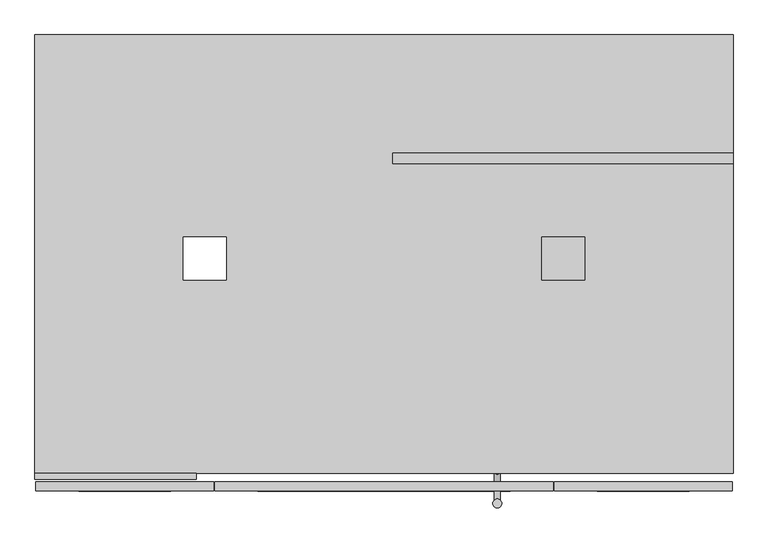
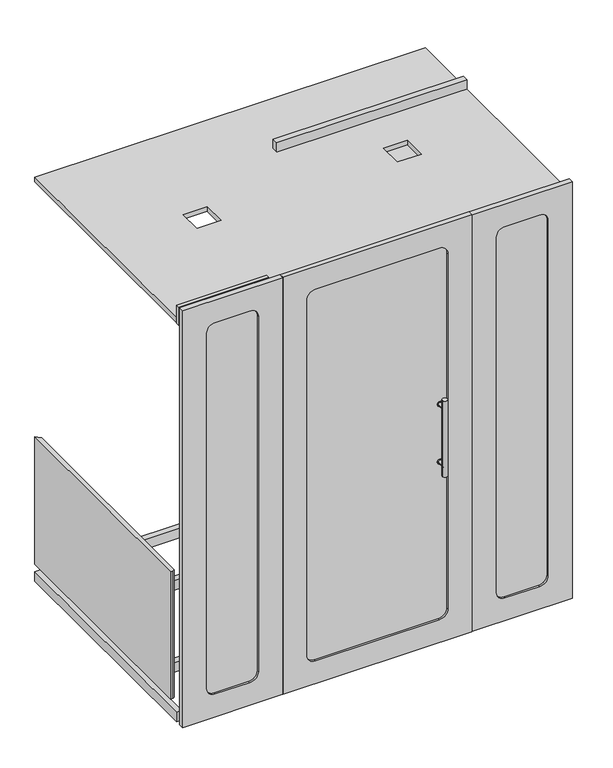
"""IFC4 building model written with IfcOpenShell, lengths in millimetres: furniture geometry, Mobiliário_Mobiliário de Escritório_Cabine Acústica 02 Pessoas - CT 02 PM FM_Marelli : Mobiliário_Mobiliário de Escritório_Cabine Acústica 02 Pessoas - CT 02 PM FM_Marelli."""

from ifc_helpers import new_model, si_unit, point, frame, frame_2d, origin, place, context, project, spatial, polyline, circle_curve, trimmed, segment, composite_curve, outline, extrude, source, transform, mapped, element, save
from ifc_brep_helpers import plane_surface, cylinder_surface, advanced_brep


def furniture_b8f9ac97(model_context):
    return source(origin(), model_context, "Body", "SolidModel", [
        extrude(outline(composite_curve([segment(trimmed(circle_curve(frame_2d((80.0, 920.0)), 5.0), [point((75.0, 920.0))], [point((80.0, 925.0))], False, "CARTESIAN"), True, "CONTINUOUS"), segment(polyline([(80.0, 925.0), (135.0, 925.0)]), True, "CONTINUOUS"), segment(trimmed(circle_curve(frame_2d((135.0, 920.0)), 5.0), [point((135.0, 925.0))], [point((140.0, 920.0))], False, "CARTESIAN"), True, "CONTINUOUS"), segment(polyline([(140.0, 920.0), (140.0, 380.0)]), True, "CONTINUOUS"), segment(trimmed(circle_curve(frame_2d((135.0, 380.0)), 5.0), [point((140.0, 380.0))], [point((135.0, 375.0))], False, "CARTESIAN"), True, "CONTINUOUS"), segment(polyline([(135.0, 375.0), (80.0, 375.0)]), True, "CONTINUOUS"), segment(trimmed(circle_curve(frame_2d((80.0, 380.0)), 5.0), [point((80.0, 375.0))], [point((75.0, 380.0))], False, "CARTESIAN"), True, "CONTINUOUS"), segment(polyline([(75.0, 380.0), (75.0, 920.0)]), True, "CONTINUOUS")], self_intersect=False), holes=[composite_curve([segment(polyline([(103.6, 725.0), (103.6, 575.0)]), True, "CONTINUOUS"), segment(trimmed(circle_curve(frame_2d((107.5, 575.0)), 3.9), [point((103.6, 575.0))], [point((111.4, 575.0))], True, "CARTESIAN"), True, "CONTINUOUS"), segment(polyline([(111.4, 575.0), (111.4, 725.0)]), True, "CONTINUOUS"), segment(trimmed(circle_curve(frame_2d((107.5, 725.0)), 3.9), [point((111.4, 725.0))], [point((103.6, 725.0))], True, "CARTESIAN"), True, "CONTINUOUS")], self_intersect=False), composite_curve([segment(polyline([(83.6, 715.0), (83.6, 585.0)]), True, "CONTINUOUS"), segment(trimmed(circle_curve(frame_2d((87.5, 585.0)), 3.9), [point((83.6, 585.0))], [point((91.4, 585.0))], True, "CARTESIAN"), True, "CONTINUOUS"), segment(polyline([(91.4, 585.0), (91.4, 715.0)]), True, "CONTINUOUS"), segment(trimmed(circle_curve(frame_2d((87.5, 715.0)), 3.9), [point((91.4, 715.0))], [point((83.6, 715.0))], True, "CARTESIAN"), True, "CONTINUOUS")], self_intersect=False), composite_curve([segment(trimmed(circle_curve(frame_2d((127.5, 715.0)), 3.9), [point((131.4, 715.0))], [point((123.6, 715.0))], True, "CARTESIAN"), True, "CONTINUOUS"), segment(polyline([(123.6, 715.0), (123.6, 585.0)]), True, "CONTINUOUS"), segment(trimmed(circle_curve(frame_2d((127.5, 585.0)), 3.9), [point((123.6, 585.0))], [point((131.4, 585.0))], True, "CARTESIAN"), True, "CONTINUOUS"), segment(polyline([(131.4, 585.0), (131.4, 715.0)]), True, "CONTINUOUS")], self_intersect=False), composite_curve([segment(trimmed(circle_curve(frame_2d((107.5, 755.0)), 3.9), [point((103.6, 755.0))], [point((111.4, 755.0))], True, "CARTESIAN"), True, "CONTINUOUS"), segment(polyline([(111.4, 755.0), (111.4, 905.0)]), True, "CONTINUOUS"), segment(trimmed(circle_curve(frame_2d((107.5, 905.0)), 3.9), [point((111.4, 905.0))], [point((103.6, 905.0))], True, "CARTESIAN"), True, "CONTINUOUS"), segment(polyline([(103.6, 905.0), (103.6, 755.0)]), True, "CONTINUOUS")], self_intersect=False), composite_curve([segment(trimmed(circle_curve(frame_2d((87.5, 765.0)), 3.9), [point((83.6, 765.0))], [point((91.4, 765.0))], True, "CARTESIAN"), True, "CONTINUOUS"), segment(polyline([(91.4, 765.0), (91.4, 895.0)]), True, "CONTINUOUS"), segment(trimmed(circle_curve(frame_2d((87.5, 895.0)), 3.9), [point((91.4, 895.0))], [point((83.6, 895.0))], True, "CARTESIAN"), True, "CONTINUOUS"), segment(polyline([(83.6, 895.0), (83.6, 765.0)]), True, "CONTINUOUS")], self_intersect=False), composite_curve([segment(polyline([(131.4, 765.0), (131.4, 895.0)]), True, "CONTINUOUS"), segment(trimmed(circle_curve(frame_2d((127.5, 895.0)), 3.9), [point((131.4, 895.0))], [point((123.6, 895.0))], True, "CARTESIAN"), True, "CONTINUOUS"), segment(polyline([(123.6, 895.0), (123.6, 765.0)]), True, "CONTINUOUS"), segment(trimmed(circle_curve(frame_2d((127.5, 765.0)), 3.9), [point((123.6, 765.0))], [point((131.4, 765.0))], True, "CARTESIAN"), True, "CONTINUOUS")], self_intersect=False), composite_curve([segment(polyline([(103.6, 545.0), (103.6, 395.0)]), True, "CONTINUOUS"), segment(trimmed(circle_curve(frame_2d((107.5, 395.0)), 3.9), [point((103.6, 395.0))], [point((111.4, 395.0))], True, "CARTESIAN"), True, "CONTINUOUS"), segment(polyline([(111.4, 395.0), (111.4, 545.0)]), True, "CONTINUOUS"), segment(trimmed(circle_curve(frame_2d((107.5, 545.0)), 3.9), [point((111.4, 545.0))], [point((103.6, 545.0))], True, "CARTESIAN"), True, "CONTINUOUS")], self_intersect=False), composite_curve([segment(polyline([(83.6, 535.0), (83.6, 405.0)]), True, "CONTINUOUS"), segment(trimmed(circle_curve(frame_2d((87.5, 405.0)), 3.9), [point((83.6, 405.0))], [point((91.4, 405.0))], True, "CARTESIAN"), True, "CONTINUOUS"), segment(polyline([(91.4, 405.0), (91.4, 535.0)]), True, "CONTINUOUS"), segment(trimmed(circle_curve(frame_2d((87.5, 535.0)), 3.9), [point((91.4, 535.0))], [point((83.6, 535.0))], True, "CARTESIAN"), True, "CONTINUOUS")], self_intersect=False), composite_curve([segment(trimmed(circle_curve(frame_2d((127.5, 535.0)), 3.9), [point((131.4, 535.0))], [point((123.6, 535.0))], True, "CARTESIAN"), True, "CONTINUOUS"), segment(polyline([(123.6, 535.0), (123.6, 405.0)]), True, "CONTINUOUS"), segment(trimmed(circle_curve(frame_2d((127.5, 405.0)), 3.9), [point((123.6, 405.0))], [point((131.4, 405.0))], True, "CARTESIAN"), True, "CONTINUOUS"), segment(polyline([(131.4, 405.0), (131.4, 535.0)]), True, "CONTINUOUS")], self_intersect=False)]), frame((0.0, 0.0, 113.5), z_axis=(0.0, 0.0, 1.0), x_axis=(1.0, 0.0, 0.0)), (0.0, 0.0, 1.0), 1.9953278),
        extrude(outline(polyline([(985.0, 945.0), (985.0, 915.0), (55.0, 915.0), (55.0, 945.0), (985.0, 945.0)])), frame((0.0, 0.0, 24.5), z_axis=(0.0, 0.0, 1.0), x_axis=(1.0, 0.0, 0.0)), (0.0, 0.0, 1.0), 50.0),
        extrude(outline(polyline([(985.0, 410.0), (985.0, 380.0), (55.0, 380.0), (55.0, 410.0), (985.0, 410.0)])), frame((0.0, 0.0, 24.5), z_axis=(0.0, 0.0, 1.0), x_axis=(1.0, 0.0, 0.0)), (0.0, 0.0, 1.0), 50.0),
        extrude(outline(composite_curve([segment(polyline([(1925.0, 920.0), (1925.0, 380.0)]), True, "CONTINUOUS"), segment(trimmed(circle_curve(frame_2d((1920.0, 380.0)), 5.0), [point((1925.0, 380.0))], [point((1920.0, 375.0))], False, "CARTESIAN"), True, "CONTINUOUS"), segment(polyline([(1920.0, 375.0), (1865.0, 375.0)]), True, "CONTINUOUS"), segment(trimmed(circle_curve(frame_2d((1865.0, 380.0)), 5.0), [point((1865.0, 375.0))], [point((1860.0, 380.0))], False, "CARTESIAN"), True, "CONTINUOUS"), segment(polyline([(1860.0, 380.0), (1860.0, 920.0)]), True, "CONTINUOUS"), segment(trimmed(circle_curve(frame_2d((1865.0, 920.0)), 5.0), [point((1860.0, 920.0))], [point((1865.0, 925.0))], False, "CARTESIAN"), True, "CONTINUOUS"), segment(polyline([(1865.0, 925.0), (1920.0, 925.0)]), True, "CONTINUOUS"), segment(trimmed(circle_curve(frame_2d((1920.0, 920.0)), 5.0), [point((1920.0, 925.0))], [point((1925.0, 920.0))], False, "CARTESIAN"), True, "CONTINUOUS")], self_intersect=False), holes=[composite_curve([segment(trimmed(circle_curve(frame_2d((1892.5, 725.0)), 3.9), [point((1896.4, 725.0))], [point((1888.6, 725.0))], True, "CARTESIAN"), True, "CONTINUOUS"), segment(polyline([(1888.6, 725.0), (1888.6, 575.0)]), True, "CONTINUOUS"), segment(trimmed(circle_curve(frame_2d((1892.5, 575.0)), 3.9), [point((1888.6, 575.0))], [point((1896.4, 575.0))], True, "CARTESIAN"), True, "CONTINUOUS"), segment(polyline([(1896.4, 575.0), (1896.4, 725.0)]), True, "CONTINUOUS")], self_intersect=False), composite_curve([segment(trimmed(circle_curve(frame_2d((1912.5, 715.0)), 3.9), [point((1916.4, 715.0))], [point((1908.6, 715.0))], True, "CARTESIAN"), True, "CONTINUOUS"), segment(polyline([(1908.6, 715.0), (1908.6, 585.0)]), True, "CONTINUOUS"), segment(trimmed(circle_curve(frame_2d((1912.5, 585.0)), 3.9), [point((1908.6, 585.0))], [point((1916.4, 585.0))], True, "CARTESIAN"), True, "CONTINUOUS"), segment(polyline([(1916.4, 585.0), (1916.4, 715.0)]), True, "CONTINUOUS")], self_intersect=False), composite_curve([segment(polyline([(1868.6, 715.0), (1868.6, 585.0)]), True, "CONTINUOUS"), segment(trimmed(circle_curve(frame_2d((1872.5, 585.0)), 3.9), [point((1868.6, 585.0))], [point((1876.4, 585.0))], True, "CARTESIAN"), True, "CONTINUOUS"), segment(polyline([(1876.4, 585.0), (1876.4, 715.0)]), True, "CONTINUOUS"), segment(trimmed(circle_curve(frame_2d((1872.5, 715.0)), 3.9), [point((1876.4, 715.0))], [point((1868.6, 715.0))], True, "CARTESIAN"), True, "CONTINUOUS")], self_intersect=False), composite_curve([segment(polyline([(1896.4, 755.0), (1896.4, 905.0)]), True, "CONTINUOUS"), segment(trimmed(circle_curve(frame_2d((1892.5, 905.0)), 3.9), [point((1896.4, 905.0))], [point((1888.6, 905.0))], True, "CARTESIAN"), True, "CONTINUOUS"), segment(polyline([(1888.6, 905.0), (1888.6, 755.0)]), True, "CONTINUOUS"), segment(trimmed(circle_curve(frame_2d((1892.5, 755.0)), 3.9), [point((1888.6, 755.0))], [point((1896.4, 755.0))], True, "CARTESIAN"), True, "CONTINUOUS")], self_intersect=False), composite_curve([segment(polyline([(1916.4, 765.0), (1916.4, 895.0)]), True, "CONTINUOUS"), segment(trimmed(circle_curve(frame_2d((1912.5, 895.0)), 3.9), [point((1916.4, 895.0))], [point((1908.6, 895.0))], True, "CARTESIAN"), True, "CONTINUOUS"), segment(polyline([(1908.6, 895.0), (1908.6, 765.0)]), True, "CONTINUOUS"), segment(trimmed(circle_curve(frame_2d((1912.5, 765.0)), 3.9), [point((1908.6, 765.0))], [point((1916.4, 765.0))], True, "CARTESIAN"), True, "CONTINUOUS")], self_intersect=False), composite_curve([segment(trimmed(circle_curve(frame_2d((1872.5, 765.0)), 3.9), [point((1868.6, 765.0))], [point((1876.4, 765.0))], True, "CARTESIAN"), True, "CONTINUOUS"), segment(polyline([(1876.4, 765.0), (1876.4, 895.0)]), True, "CONTINUOUS"), segment(trimmed(circle_curve(frame_2d((1872.5, 895.0)), 3.9), [point((1876.4, 895.0))], [point((1868.6, 895.0))], True, "CARTESIAN"), True, "CONTINUOUS"), segment(polyline([(1868.6, 895.0), (1868.6, 765.0)]), True, "CONTINUOUS")], self_intersect=False), composite_curve([segment(trimmed(circle_curve(frame_2d((1892.5, 545.0)), 3.9), [point((1896.4, 545.0))], [point((1888.6, 545.0))], True, "CARTESIAN"), True, "CONTINUOUS"), segment(polyline([(1888.6, 545.0), (1888.6, 395.0)]), True, "CONTINUOUS"), segment(trimmed(circle_curve(frame_2d((1892.5, 395.0)), 3.9), [point((1888.6, 395.0))], [point((1896.4, 395.0))], True, "CARTESIAN"), True, "CONTINUOUS"), segment(polyline([(1896.4, 395.0), (1896.4, 545.0)]), True, "CONTINUOUS")], self_intersect=False), composite_curve([segment(trimmed(circle_curve(frame_2d((1912.5, 535.0)), 3.9), [point((1916.4, 535.0))], [point((1908.6, 535.0))], True, "CARTESIAN"), True, "CONTINUOUS"), segment(polyline([(1908.6, 535.0), (1908.6, 405.0)]), True, "CONTINUOUS"), segment(trimmed(circle_curve(frame_2d((1912.5, 405.0)), 3.9), [point((1908.6, 405.0))], [point((1916.4, 405.0))], True, "CARTESIAN"), True, "CONTINUOUS"), segment(polyline([(1916.4, 405.0), (1916.4, 535.0)]), True, "CONTINUOUS")], self_intersect=False), composite_curve([segment(polyline([(1868.6, 535.0), (1868.6, 405.0)]), True, "CONTINUOUS"), segment(trimmed(circle_curve(frame_2d((1872.5, 405.0)), 3.9), [point((1868.6, 405.0))], [point((1876.4, 405.0))], True, "CARTESIAN"), True, "CONTINUOUS"), segment(polyline([(1876.4, 405.0), (1876.4, 535.0)]), True, "CONTINUOUS"), segment(trimmed(circle_curve(frame_2d((1872.5, 535.0)), 3.9), [point((1876.4, 535.0))], [point((1868.6, 535.0))], True, "CARTESIAN"), True, "CONTINUOUS")], self_intersect=False)]), frame((0.0, 0.0, 113.5), z_axis=(0.0, 0.0, 1.0), x_axis=(1.0, 0.0, 0.0)), (0.0, 0.0, 1.0), 1.9953278),
        extrude(outline(composite_curve([segment(polyline([(25.0, 102.0), (25.0, 1275.0), (45.5304331, 1254.4695669)]), True, "CONTINUOUS"), segment(trimmed(circle_curve(frame_2d((43.1599032, 1251.4457873)), 3.84222), [point((45.5304331, 1254.4695669))], [point((47.0, 1251.3180705))], False, "CARTESIAN"), True, "CONTINUOUS"), segment(polyline([(47.0, 1251.3180705), (47.0, 113.0)]), True, "CONTINUOUS"), segment(trimmed(circle_curve(frame_2d((36.0, 113.0)), 11.0), [point((47.0, 113.0))], [point((36.0, 102.0))], False, "CARTESIAN"), True, "CONTINUOUS"), segment(polyline([(36.0, 102.0), (25.0, 102.0)]), True, "CONTINUOUS")], self_intersect=False)), frame((0.0, 0.0, 113.5), z_axis=(0.0, 0.0, 1.0), x_axis=(1.0, 0.0, 0.0)), (0.0, 0.0, 1.0), 672.0),
        extrude(outline(composite_curve([segment(polyline([(1252.9978767, 2109.5), (124.0, 2109.5)]), True, "CONTINUOUS"), segment(trimmed(circle_curve(frame_2d((124.0, 2131.5)), 22.0), [point((124.0, 2109.5))], [point((102.0, 2131.5))], False, "CARTESIAN"), True, "CONTINUOUS"), segment(polyline([(102.0, 2131.5), (1252.9978767, 2131.5), (1252.9978767, 2109.5)]), True, "CONTINUOUS")], self_intersect=False)), frame((1317.666, 0.0, 0.0), z_axis=(1.0, 0.0, 0.0), x_axis=(0.0, 1.0, 0.0)), (0.0, 0.0, 1.0), 635.333),
        extrude(outline(composite_curve([segment(polyline([(1443.0368913, 710.0), (1556.9631087, 710.0)]), True, "CONTINUOUS"), segment(trimmed(circle_curve(frame_2d((1556.9631087, 706.9631087)), 3.0368913), [point((1556.9631087, 710.0))], [point((1560.0, 706.9631087))], False, "CARTESIAN"), True, "CONTINUOUS"), segment(polyline([(1560.0, 706.9631087), (1560.0, 593.0368913)]), True, "CONTINUOUS"), segment(trimmed(circle_curve(frame_2d((1556.9631087, 593.0368913)), 3.0368913), [point((1560.0, 593.0368913))], [point((1556.9631087, 590.0))], False, "CARTESIAN"), True, "CONTINUOUS"), segment(polyline([(1556.9631087, 590.0), (1443.0368913, 590.0)]), True, "CONTINUOUS"), segment(trimmed(circle_curve(frame_2d((1443.0368913, 593.0368913)), 3.0368913), [point((1443.0368913, 590.0))], [point((1440.0, 593.0368913))], False, "CARTESIAN"), True, "CONTINUOUS"), segment(polyline([(1440.0, 593.0368913), (1440.0, 706.9631087)]), True, "CONTINUOUS"), segment(trimmed(circle_curve(frame_2d((1443.0368913, 706.9631087)), 3.0368913), [point((1440.0, 706.9631087))], [point((1443.0368913, 710.0))], False, "CARTESIAN"), True, "CONTINUOUS")], self_intersect=False), holes=[composite_curve([segment(trimmed(circle_curve(frame_2d((1500.0, 700.0)), 4.0), [point((1504.0, 700.0))], [point((1496.0, 700.0))], True, "CARTESIAN"), True, "CONTINUOUS"), segment(polyline([(1496.0, 700.0), (1496.0, 600.0)]), True, "CONTINUOUS"), segment(trimmed(circle_curve(frame_2d((1500.0, 600.0)), 4.0), [point((1496.0, 600.0))], [point((1504.0, 600.0))], True, "CARTESIAN"), True, "CONTINUOUS"), segment(polyline([(1504.0, 600.0), (1504.0, 700.0)]), True, "CONTINUOUS")], self_intersect=False), composite_curve([segment(trimmed(circle_curve(frame_2d((1516.0, 690.0)), 4.0), [point((1520.0, 690.0))], [point((1512.0, 690.0))], True, "CARTESIAN"), True, "CONTINUOUS"), segment(polyline([(1512.0, 690.0), (1512.0, 610.0)]), True, "CONTINUOUS"), segment(trimmed(circle_curve(frame_2d((1516.0, 610.0)), 4.0), [point((1512.0, 610.0))], [point((1520.0, 610.0))], True, "CARTESIAN"), True, "CONTINUOUS"), segment(polyline([(1520.0, 610.0), (1520.0, 690.0)]), True, "CONTINUOUS")], self_intersect=False), composite_curve([segment(trimmed(circle_curve(frame_2d((1532.0, 680.0)), 4.0), [point((1536.0, 680.0))], [point((1528.0, 680.0))], True, "CARTESIAN"), True, "CONTINUOUS"), segment(polyline([(1528.0, 680.0), (1528.0, 620.0)]), True, "CONTINUOUS"), segment(trimmed(circle_curve(frame_2d((1532.0, 620.0)), 4.0), [point((1528.0, 620.0))], [point((1536.0, 620.0))], True, "CARTESIAN"), True, "CONTINUOUS"), segment(polyline([(1536.0, 620.0), (1536.0, 680.0)]), True, "CONTINUOUS")], self_intersect=False), composite_curve([segment(trimmed(circle_curve(frame_2d((1548.0, 670.0)), 4.0), [point((1552.0, 670.0))], [point((1544.0, 670.0))], True, "CARTESIAN"), True, "CONTINUOUS"), segment(polyline([(1544.0, 670.0), (1544.0, 630.0)]), True, "CONTINUOUS"), segment(trimmed(circle_curve(frame_2d((1548.0, 630.0)), 4.0), [point((1544.0, 630.0))], [point((1552.0, 630.0))], True, "CARTESIAN"), True, "CONTINUOUS"), segment(polyline([(1552.0, 630.0), (1552.0, 670.0)]), True, "CONTINUOUS")], self_intersect=False), composite_curve([segment(polyline([(1480.0, 690.0), (1480.0, 610.0)]), True, "CONTINUOUS"), segment(trimmed(circle_curve(frame_2d((1484.0, 610.0)), 4.0), [point((1480.0, 610.0))], [point((1488.0, 610.0))], True, "CARTESIAN"), True, "CONTINUOUS"), segment(polyline([(1488.0, 610.0), (1488.0, 690.0)]), True, "CONTINUOUS"), segment(trimmed(circle_curve(frame_2d((1484.0, 690.0)), 4.0), [point((1488.0, 690.0))], [point((1480.0, 690.0))], True, "CARTESIAN"), True, "CONTINUOUS")], self_intersect=False), composite_curve([segment(polyline([(1464.0, 680.0), (1464.0, 620.0)]), True, "CONTINUOUS"), segment(trimmed(circle_curve(frame_2d((1468.0, 620.0)), 4.0), [point((1464.0, 620.0))], [point((1472.0, 620.0))], True, "CARTESIAN"), True, "CONTINUOUS"), segment(polyline([(1472.0, 620.0), (1472.0, 680.0)]), True, "CONTINUOUS"), segment(trimmed(circle_curve(frame_2d((1468.0, 680.0)), 4.0), [point((1472.0, 680.0))], [point((1464.0, 680.0))], True, "CARTESIAN"), True, "CONTINUOUS")], self_intersect=False), composite_curve([segment(polyline([(1448.0, 670.0), (1448.0, 630.0)]), True, "CONTINUOUS"), segment(trimmed(circle_curve(frame_2d((1452.0, 630.0)), 4.0), [point((1448.0, 630.0))], [point((1456.0, 630.0))], True, "CARTESIAN"), True, "CONTINUOUS"), segment(polyline([(1456.0, 630.0), (1456.0, 670.0)]), True, "CONTINUOUS"), segment(trimmed(circle_curve(frame_2d((1452.0, 670.0)), 4.0), [point((1456.0, 670.0))], [point((1448.0, 670.0))], True, "CARTESIAN"), True, "CONTINUOUS")], self_intersect=False)]), frame((0.0, 0.0, 2107.4845827), z_axis=(0.0, 0.0, 1.0), x_axis=(1.0, 0.0, 0.0)), (0.0, 0.0, 1.0), 2.0154173),
        extrude(outline(polyline([(25.0, 50.0), (475.0, 50.0), (475.0, 32.0), (25.0, 32.0), (25.0, 50.0)])), frame((0.0, 0.0, 2128.5), z_axis=(0.0, 0.0, 1.0), x_axis=(1.0, 0.0, 0.0)), (0.0, 0.0, 1.0), 96.0),
        extrude(outline(polyline([(1975.0, 1275.0), (1975.0, 50.0), (25.0, 50.0), (25.0, 1275.0), (1975.0, 1275.0)]), holes=[polyline([(560.0, 710.0), (440.0, 710.0), (440.0, 590.0), (560.0, 590.0), (560.0, 710.0)]), polyline([(1440.0, 710.0), (1440.0, 590.0), (1560.0, 590.0), (1560.0, 710.0), (1440.0, 710.0)])]), frame((0.0, 0.0, 2131.5), z_axis=(0.0, 0.0, 1.0), x_axis=(1.0, 0.0, 0.0)), (0.0, 0.0, 1.0), 25.0),
        extrude(outline(polyline([(25.0, 1275.0), (1975.0, 1275.0), (1975.0, 50.0), (25.0, 50.0), (25.0, 1275.0)]), holes=[polyline([(55.0, 80.0), (985.0, 80.0), (985.0, 1245.0), (55.0, 1245.0), (55.0, 80.0)]), polyline([(1945.0, 1245.0), (1015.0, 1245.0), (1015.0, 80.0), (1945.0, 80.0), (1945.0, 1245.0)])]), frame((0.0, 0.0, 24.5), z_axis=(0.0, 0.0, 1.0), x_axis=(1.0, 0.0, 0.0)), (0.0, 0.0, 1.0), 50.0),
        extrude(outline(composite_curve([segment(polyline([(1252.9978767, 2109.5), (124.0, 2109.5)]), True, "CONTINUOUS"), segment(trimmed(circle_curve(frame_2d((124.0, 2131.5)), 22.0), [point((124.0, 2109.5))], [point((102.0, 2131.5))], False, "CARTESIAN"), True, "CONTINUOUS"), segment(polyline([(102.0, 2131.5), (1252.9978767, 2131.5), (1252.9978767, 2109.5)]), True, "CONTINUOUS")], self_intersect=False)), frame((682.333, 0.0, 0.0), z_axis=(1.0, 0.0, 0.0), x_axis=(0.0, 1.0, 0.0)), (0.0, 0.0, 1.0), 635.333),
        advanced_brep(
        [(1060.0, 926.5, 113.5), (1060.0, 926.5, 114.5), (1060.0, 847.5, 114.5), (1060.0, 847.5, 113.5), (940.0, 926.5, 113.5), (940.0, 847.5, 113.5), (940.0, 847.5, 114.5), (940.0, 926.5, 114.5), (987.5, 909.0, 117.9660049), (1012.5, 909.0, 117.9660049), (1012.5, 865.0, 117.9660049), (987.5, 865.0, 117.9660049), (1012.5, 909.0, 114.5), (987.5, 909.0, 114.5), (987.5, 865.0, 114.5), (1012.5, 865.0, 114.5)],
        [
            (0, 1),
            (1, 2, circle_curve(frame((1060.0, 887.0, -39.025), z_axis=(1.0, 0.0, 0.0), x_axis=(0.0, 1.0, 0.0)), 158.525)),
            (2, 3),
            (3, 0),
            (4, 5),
            (5, 6),
            (6, 7, circle_curve(frame((940.0, 887.0, -39.025), z_axis=(-1.0, 0.0, 0.0), x_axis=(0.0, 1.0, 0.0)), 158.525)),
            (7, 4),
            (0, 4),
            (7, 1),
            (6, 2),
            (8, 9),
            (9, 10, circle_curve(frame((1012.5, 887.0, -39.025), z_axis=(1.0, 0.0, 0.0), x_axis=(0.0, 1.0, 0.0)), 158.525)),
            (10, 11),
            (11, 8, circle_curve(frame((987.5, 887.0, -39.025), z_axis=(-1.0, 0.0, 0.0), x_axis=(0.0, 1.0, 0.0)), 158.525)),
            (5, 3),
            (12, 13),
            (13, 14),
            (14, 15),
            (15, 12),
            (12, 9),
            (8, 13),
            (11, 14),
            (10, 15),
        ],
        [
            plane_surface(frame((1060.0, 926.5, 113.5), z_axis=(1.0, 0.0, 0.0), x_axis=(0.0, 0.0, 1.0))),
            plane_surface(frame((940.0, 926.5, 113.5), z_axis=(-1.0, 0.0, 0.0), x_axis=(0.0, 0.0, -1.0))),
            plane_surface(frame((1060.0, 926.5, 113.5), z_axis=(0.0, 1.0, 0.0), x_axis=(-1.0, 0.0, 0.0))),
            cylinder_surface(frame((940.0, 887.0, -39.025), z_axis=(1.0, 0.0, 0.0), x_axis=(0.0, 1.0, 0.0)), 158.525),
            plane_surface(frame((1060.0, 847.5, 114.5), z_axis=(0.0, -1.0, 0.0), x_axis=(-1.0, 0.0, 0.0))),
            plane_surface(frame((1060.0, 847.5, 113.5), z_axis=(0.0, 0.0, -1.0), x_axis=(-1.0, 0.0, 0.0))),
            plane_surface(frame((987.5, 909.0, 114.5), z_axis=(0.0, 0.0, 1.0), x_axis=(1.0, 0.0, 0.0))),
            plane_surface(frame((1012.5, 909.0, 515.4705653), z_axis=(0.0, -1.0, 0.0), x_axis=(0.0, 0.0, -1.0))),
            plane_surface(frame((987.5, 909.0, 515.4705653), z_axis=(1.0, 0.0, 0.0), x_axis=(0.0, 0.0, -1.0))),
            plane_surface(frame((987.5, 865.0, 515.4705653), z_axis=(0.0, 1.0, 0.0), x_axis=(0.0, 0.0, -1.0))),
            plane_surface(frame((1012.5, 865.0, 515.4705653), z_axis=(-1.0, 0.0, 0.0), x_axis=(0.0, 0.0, -1.0))),
        ],
        [
            (0, [[1, 2, 3, 4]]),
            (1, [[5, 6, 7, 8]]),
            (2, [[-1, 9, -8, 10]]),
            (3, [[-2, -10, -7, 11], [12, 13, 14, 15]]),
            (4, [[-3, -11, -6, 16]]),
            (5, [[-4, -16, -5, -9]]),
            (6, [[17, 18, 19, 20]]),
            (7, [[-17, 21, -12, 22]]),
            (8, [[-18, -22, -15, 23]]),
            (9, [[-19, -23, -14, 24]]),
            (10, [[-20, -24, -13, -21]]),
        ],
    ),
        extrude(outline(polyline([(1012.5, 909.0), (1012.5, 865.0), (987.5, 865.0), (987.5, 909.0), (1012.5, 909.0)]), holes=[composite_curve([segment(polyline([(1008.3402427, 896.6597573), (1001.4623946, 903.5376054)]), True, "CONTINUOUS"), segment(trimmed(circle_curve(frame_2d((1000.0, 902.1779629)), 1.9968039), [point((1001.4623946, 903.5376054))], [point((998.5376054, 903.5376054))], True, "CARTESIAN"), True, "CONTINUOUS"), segment(polyline([(998.5376054, 903.5376054), (991.6597573, 896.6597573)]), True, "CONTINUOUS"), segment(trimmed(circle_curve(frame_2d((992.9968039, 895.1766753)), 1.9968039), [point((991.6597573, 896.6597573))], [point((991.0, 895.1766753))], True, "CARTESIAN"), True, "CONTINUOUS"), segment(polyline([(991.0, 895.1766753), (991.0, 878.8233247)]), True, "CONTINUOUS"), segment(trimmed(circle_curve(frame_2d((992.9968039, 878.8233247)), 1.9968039), [point((991.0, 878.8233247))], [point((991.6597573, 877.3402427))], True, "CARTESIAN"), True, "CONTINUOUS"), segment(polyline([(991.6597573, 877.3402427), (998.5376054, 870.4623946)]), True, "CONTINUOUS"), segment(trimmed(circle_curve(frame_2d((1000.0, 871.8220371)), 1.9968039), [point((998.5376054, 870.4623946))], [point((1001.4623946, 870.4623946))], True, "CARTESIAN"), True, "CONTINUOUS"), segment(polyline([(1001.4623946, 870.4623946), (1008.3402427, 877.3402427)]), True, "CONTINUOUS"), segment(trimmed(circle_curve(frame_2d((1007.0031961, 878.8233247)), 1.9968039), [point((1008.3402427, 877.3402427))], [point((1009.0, 878.8233247))], True, "CARTESIAN"), True, "CONTINUOUS"), segment(polyline([(1009.0, 878.8233247), (1009.0, 895.1766753)]), True, "CONTINUOUS"), segment(trimmed(circle_curve(frame_2d((1007.0031961, 895.1766753)), 1.9968039), [point((1009.0, 895.1766753))], [point((1008.3402427, 896.6597573))], True, "CARTESIAN"), True, "CONTINUOUS")], self_intersect=False)]), frame((0.0, 0.0, 114.5), z_axis=(0.0, 0.0, 1.0), x_axis=(1.0, 0.0, 0.0)), (0.0, 0.0, 1.0), 5.5),
        extrude(outline(composite_curve([segment(polyline([(1975.0, 102.0), (1964.0, 102.0)]), True, "CONTINUOUS"), segment(trimmed(circle_curve(frame_2d((1964.0, 113.0)), 11.0), [point((1964.0, 102.0))], [point((1953.0, 113.0))], False, "CARTESIAN"), True, "CONTINUOUS"), segment(polyline([(1953.0, 113.0), (1953.0, 1249.6361409), (1953.0, 1251.3180705)]), True, "CONTINUOUS"), segment(trimmed(circle_curve(frame_2d((1956.8400968, 1251.4457873)), 3.84222), [point((1953.0, 1251.3180705))], [point((1954.4695669, 1254.4695669))], False, "CARTESIAN"), True, "CONTINUOUS"), segment(polyline([(1954.4695669, 1254.4695669), (1975.0, 1275.0), (1975.0, 102.0)]), True, "CONTINUOUS")], self_intersect=False)), frame((0.0, 0.0, 1459.7), z_axis=(0.0, 0.0, 1.0), x_axis=(1.0, 0.0, 0.0)), (0.0, 0.0, 1.0), 671.8),
        extrude(outline(polyline([(1025.0, 915.0), (1025.0, 945.0), (1975.0, 945.0), (1975.0, 915.0), (1025.0, 915.0)])), frame((0.0, 0.0, 2156.5), z_axis=(0.0, 0.0, 1.0), x_axis=(1.0, 0.0, 0.0)), (0.0, 0.0, 1.0), 50.0),
        extrude(outline(polyline([(2224.5, 1472.5), (2224.5, 527.5), (24.5, 527.5), (24.5, 1472.5), (2224.5, 1472.5)]), holes=[composite_curve([segment(polyline([(187.0, 647.5), (2062.0, 647.5)]), True, "CONTINUOUS"), segment(trimmed(circle_curve(frame_2d((2062.0, 690.0)), 42.5), [point((2062.0, 647.5))], [point((2104.5, 690.0))], True, "CARTESIAN"), True, "CONTINUOUS"), segment(polyline([(2104.5, 690.0), (2104.5, 1310.0)]), True, "CONTINUOUS"), segment(trimmed(circle_curve(frame_2d((2062.0, 1310.0)), 42.5), [point((2104.5, 1310.0))], [point((2062.0, 1352.5))], True, "CARTESIAN"), True, "CONTINUOUS"), segment(polyline([(2062.0, 1352.5), (187.0, 1352.5)]), True, "CONTINUOUS"), segment(trimmed(circle_curve(frame_2d((187.0, 1310.0)), 42.5), [point((187.0, 1352.5))], [point((144.5, 1310.0))], True, "CARTESIAN"), True, "CONTINUOUS"), segment(polyline([(144.5, 1310.0), (144.5, 690.0)]), True, "CONTINUOUS"), segment(trimmed(circle_curve(frame_2d((187.0, 690.0)), 42.5), [point((144.5, 690.0))], [point((187.0, 647.5))], True, "CARTESIAN"), True, "CONTINUOUS")], self_intersect=False)]), frame((0.0, 0.0, 0.0), z_axis=(0.0, 1.0, 0.0), x_axis=(0.0, 0.0, 1.0)), (0.0, 0.0, 1.0), 25.0),
        extrude(outline(composite_curve([segment(polyline([(2062.0, 647.5), (187.0, 647.5)]), True, "CONTINUOUS"), segment(trimmed(circle_curve(frame_2d((187.0, 690.0)), 42.5), [point((187.0, 647.5))], [point((144.5, 690.0))], False, "CARTESIAN"), True, "CONTINUOUS"), segment(polyline([(144.5, 690.0), (144.5, 1310.0)]), True, "CONTINUOUS"), segment(trimmed(circle_curve(frame_2d((187.0, 1310.0)), 42.5), [point((144.5, 1310.0))], [point((187.0, 1352.5))], False, "CARTESIAN"), True, "CONTINUOUS"), segment(polyline([(187.0, 1352.5), (2062.0, 1352.5)]), True, "CONTINUOUS"), segment(trimmed(circle_curve(frame_2d((2062.0, 1310.0)), 42.5), [point((2062.0, 1352.5))], [point((2104.5, 1310.0))], False, "CARTESIAN"), True, "CONTINUOUS"), segment(polyline([(2104.5, 1310.0), (2104.5, 690.0)]), True, "CONTINUOUS"), segment(trimmed(circle_curve(frame_2d((2062.0, 690.0)), 42.5), [point((2104.5, 690.0))], [point((2062.0, 647.5))], False, "CARTESIAN"), True, "CONTINUOUS")], self_intersect=False)), frame((0.0, 9.5, 0.0), z_axis=(0.0, 1.0, 0.0), x_axis=(0.0, 0.0, 1.0)), (0.0, 0.0, 1.0), 6.0),
        extrude(outline(composite_curve([segment(trimmed(circle_curve(frame_2d((1316.5, -34.7)), 12.5), [point((1304.0, -34.7))], [point((1329.0, -34.7))], False, "CARTESIAN"), True, "CONTINUOUS"), segment(trimmed(circle_curve(frame_2d((1316.5, -34.7)), 12.5), [point((1329.0, -34.7))], [point((1304.0, -34.7))], False, "CARTESIAN"), True, "CONTINUOUS")], self_intersect=False)), frame((0.0, 0.0, 924.5), z_axis=(0.0, 0.0, 1.0), x_axis=(1.0, 0.0, 0.0)), (0.0, 0.0, 1.0), 400.0),
        extrude(outline(composite_curve([segment(trimmed(circle_curve(frame_2d((1316.5, 59.7)), 12.5), [point((1304.0, 59.7))], [point((1329.0, 59.7))], False, "CARTESIAN"), True, "CONTINUOUS"), segment(trimmed(circle_curve(frame_2d((1316.5, 59.7)), 12.5), [point((1329.0, 59.7))], [point((1304.0, 59.7))], False, "CARTESIAN"), True, "CONTINUOUS")], self_intersect=False)), frame((0.0, 0.0, 924.5), z_axis=(0.0, 0.0, 1.0), x_axis=(1.0, 0.0, 0.0)), (0.0, 0.0, 1.0), 400.0),
        extrude(outline(composite_curve([segment(trimmed(circle_curve(frame_2d((1276.5, 1316.5)), 8.0), [point((1276.5, 1308.5))], [point((1276.5, 1324.5))], False, "CARTESIAN"), True, "CONTINUOUS"), segment(trimmed(circle_curve(frame_2d((1276.5, 1316.5)), 8.0), [point((1276.5, 1324.5))], [point((1276.5, 1308.5))], False, "CARTESIAN"), True, "CONTINUOUS")], self_intersect=False)), frame((0.0, -34.7, 0.0), z_axis=(0.0, 1.0, 0.0), x_axis=(0.0, 0.0, 1.0)), (0.0, 0.0, 1.0), 41.173743),
        extrude(outline(composite_curve([segment(trimmed(circle_curve(frame_2d((972.5, 1316.5)), 8.0), [point((972.5, 1308.5))], [point((972.5, 1324.5))], False, "CARTESIAN"), True, "CONTINUOUS"), segment(trimmed(circle_curve(frame_2d((972.5, 1316.5)), 8.0), [point((972.5, 1324.5))], [point((972.5, 1308.5))], False, "CARTESIAN"), True, "CONTINUOUS")], self_intersect=False)), frame((0.0, -34.7, 0.0), z_axis=(0.0, 1.0, 0.0), x_axis=(0.0, 0.0, 1.0)), (0.0, 0.0, 1.0), 41.173743),
        extrude(outline(composite_curve([segment(trimmed(circle_curve(frame_2d((1276.5, 1316.5)), 12.5), [point((1276.5, 1304.0))], [point((1276.5, 1329.0))], False, "CARTESIAN"), True, "CONTINUOUS"), segment(trimmed(circle_curve(frame_2d((1276.5, 1316.5)), 12.5), [point((1276.5, 1329.0))], [point((1276.5, 1304.0))], False, "CARTESIAN"), True, "CONTINUOUS")], self_intersect=False)), frame((0.0, 6.473743, 0.0), z_axis=(0.0, 1.0, 0.0), x_axis=(0.0, 0.0, 1.0)), (0.0, 0.0, 1.0), 3.026257),
        extrude(outline(composite_curve([segment(trimmed(circle_curve(frame_2d((972.5, 1316.5)), 12.5), [point((972.5, 1304.0))], [point((972.5, 1329.0))], False, "CARTESIAN"), True, "CONTINUOUS"), segment(trimmed(circle_curve(frame_2d((972.5, 1316.5)), 12.5), [point((972.5, 1329.0))], [point((972.5, 1304.0))], False, "CARTESIAN"), True, "CONTINUOUS")], self_intersect=False)), frame((0.0, 6.473743, 0.0), z_axis=(0.0, 1.0, 0.0), x_axis=(0.0, 0.0, 1.0)), (0.0, 0.0, 1.0), 3.026257),
        extrude(outline(composite_curve([segment(trimmed(circle_curve(frame_2d((1276.5, 1316.5)), 8.0), [point((1276.5, 1308.5))], [point((1276.5, 1324.5))], False, "CARTESIAN"), True, "CONTINUOUS"), segment(trimmed(circle_curve(frame_2d((1276.5, 1316.5)), 8.0), [point((1276.5, 1324.5))], [point((1276.5, 1308.5))], False, "CARTESIAN"), True, "CONTINUOUS")], self_intersect=False)), frame((0.0, 18.526257, 0.0), z_axis=(0.0, 1.0, 0.0), x_axis=(0.0, 0.0, 1.0)), (0.0, 0.0, 1.0), 41.173743),
        extrude(outline(composite_curve([segment(trimmed(circle_curve(frame_2d((972.5, 1316.5)), 8.0), [point((972.5, 1308.5))], [point((972.5, 1324.5))], False, "CARTESIAN"), True, "CONTINUOUS"), segment(trimmed(circle_curve(frame_2d((972.5, 1316.5)), 8.0), [point((972.5, 1324.5))], [point((972.5, 1308.5))], False, "CARTESIAN"), True, "CONTINUOUS")], self_intersect=False)), frame((0.0, 18.526257, 0.0), z_axis=(0.0, 1.0, 0.0), x_axis=(0.0, 0.0, 1.0)), (0.0, 0.0, 1.0), 41.173743),
        extrude(outline(composite_curve([segment(trimmed(circle_curve(frame_2d((1276.5, 1316.5)), 12.5), [point((1276.5, 1304.0))], [point((1276.5, 1329.0))], False, "CARTESIAN"), True, "CONTINUOUS"), segment(trimmed(circle_curve(frame_2d((1276.5, 1316.5)), 12.5), [point((1276.5, 1329.0))], [point((1276.5, 1304.0))], False, "CARTESIAN"), True, "CONTINUOUS")], self_intersect=False)), frame((0.0, 15.5, 0.0), z_axis=(0.0, 1.0, 0.0), x_axis=(0.0, 0.0, 1.0)), (0.0, 0.0, 1.0), 3.026257),
        extrude(outline(composite_curve([segment(trimmed(circle_curve(frame_2d((972.5, 1316.5)), 12.5), [point((972.5, 1304.0))], [point((972.5, 1329.0))], False, "CARTESIAN"), True, "CONTINUOUS"), segment(trimmed(circle_curve(frame_2d((972.5, 1316.5)), 12.5), [point((972.5, 1329.0))], [point((972.5, 1304.0))], False, "CARTESIAN"), True, "CONTINUOUS")], self_intersect=False)), frame((0.0, 15.5, 0.0), z_axis=(0.0, 1.0, 0.0), x_axis=(0.0, 0.0, 1.0)), (0.0, 0.0, 1.0), 3.026257),
        extrude(outline(polyline([(2224.5, 525.0), (2224.5, 27.5), (24.5, 27.5), (24.5, 525.0), (2224.5, 525.0)]), holes=[composite_curve([segment(polyline([(187.0, 147.5), (2062.0, 147.5)]), True, "CONTINUOUS"), segment(trimmed(circle_curve(frame_2d((2062.0, 190.0)), 42.5), [point((2062.0, 147.5))], [point((2104.5, 190.0))], True, "CARTESIAN"), True, "CONTINUOUS"), segment(polyline([(2104.5, 190.0), (2104.5, 362.5)]), True, "CONTINUOUS"), segment(trimmed(circle_curve(frame_2d((2062.0, 362.5)), 42.5), [point((2104.5, 362.5))], [point((2062.0, 405.0))], True, "CARTESIAN"), True, "CONTINUOUS"), segment(polyline([(2062.0, 405.0), (187.0, 405.0)]), True, "CONTINUOUS"), segment(trimmed(circle_curve(frame_2d((187.0, 362.5)), 42.5), [point((187.0, 405.0))], [point((144.5, 362.5))], True, "CARTESIAN"), True, "CONTINUOUS"), segment(polyline([(144.5, 362.5), (144.5, 190.0)]), True, "CONTINUOUS"), segment(trimmed(circle_curve(frame_2d((187.0, 190.0)), 42.5), [point((144.5, 190.0))], [point((187.0, 147.5))], True, "CARTESIAN"), True, "CONTINUOUS")], self_intersect=False)]), frame((0.0, 0.0, 0.0), z_axis=(0.0, 1.0, 0.0), x_axis=(0.0, 0.0, 1.0)), (0.0, 0.0, 1.0), 25.0),
        extrude(outline(composite_curve([segment(polyline([(2062.0, 147.5), (187.0, 147.5)]), True, "CONTINUOUS"), segment(trimmed(circle_curve(frame_2d((187.0, 190.0)), 42.5), [point((187.0, 147.5))], [point((144.5, 190.0))], False, "CARTESIAN"), True, "CONTINUOUS"), segment(polyline([(144.5, 190.0), (144.5, 362.5)]), True, "CONTINUOUS"), segment(trimmed(circle_curve(frame_2d((187.0, 362.5)), 42.5), [point((144.5, 362.5))], [point((187.0, 405.0))], False, "CARTESIAN"), True, "CONTINUOUS"), segment(polyline([(187.0, 405.0), (2062.0, 405.0)]), True, "CONTINUOUS"), segment(trimmed(circle_curve(frame_2d((2062.0, 362.5)), 42.5), [point((2062.0, 405.0))], [point((2104.5, 362.5))], False, "CARTESIAN"), True, "CONTINUOUS"), segment(polyline([(2104.5, 362.5), (2104.5, 190.0)]), True, "CONTINUOUS"), segment(trimmed(circle_curve(frame_2d((2062.0, 190.0)), 42.5), [point((2104.5, 190.0))], [point((2062.0, 147.5))], False, "CARTESIAN"), True, "CONTINUOUS")], self_intersect=False)), frame((0.0, 9.5, 0.0), z_axis=(0.0, 1.0, 0.0), x_axis=(0.0, 0.0, 1.0)), (0.0, 0.0, 1.0), 6.0),
        extrude(outline(polyline([(2224.5, 1475.0), (24.5, 1475.0), (24.5, 1972.5), (2224.5, 1972.5), (2224.5, 1475.0)]), holes=[composite_curve([segment(trimmed(circle_curve(frame_2d((187.0, 1810.0)), 42.5), [point((187.0, 1852.5))], [point((144.5, 1810.0))], True, "CARTESIAN"), True, "CONTINUOUS"), segment(polyline([(144.5, 1810.0), (144.5, 1637.5)]), True, "CONTINUOUS"), segment(trimmed(circle_curve(frame_2d((187.0, 1637.5)), 42.5), [point((144.5, 1637.5))], [point((187.0, 1595.0))], True, "CARTESIAN"), True, "CONTINUOUS"), segment(polyline([(187.0, 1595.0), (2062.0, 1595.0)]), True, "CONTINUOUS"), segment(trimmed(circle_curve(frame_2d((2062.0, 1637.5)), 42.5), [point((2062.0, 1595.0))], [point((2104.5, 1637.5))], True, "CARTESIAN"), True, "CONTINUOUS"), segment(polyline([(2104.5, 1637.5), (2104.5, 1810.0)]), True, "CONTINUOUS"), segment(trimmed(circle_curve(frame_2d((2062.0, 1810.0)), 42.5), [point((2104.5, 1810.0))], [point((2062.0, 1852.5))], True, "CARTESIAN"), True, "CONTINUOUS"), segment(polyline([(2062.0, 1852.5), (187.0, 1852.5)]), True, "CONTINUOUS")], self_intersect=False)]), frame((0.0, 0.0, 0.0), z_axis=(0.0, 1.0, 0.0), x_axis=(0.0, 0.0, 1.0)), (0.0, 0.0, 1.0), 25.0),
        extrude(outline(composite_curve([segment(trimmed(circle_curve(frame_2d((2062.0, 1810.0)), 42.5), [point((2062.0, 1852.5))], [point((2104.5, 1810.0))], False, "CARTESIAN"), True, "CONTINUOUS"), segment(polyline([(2104.5, 1810.0), (2104.5, 1637.5)]), True, "CONTINUOUS"), segment(trimmed(circle_curve(frame_2d((2062.0, 1637.5)), 42.5), [point((2104.5, 1637.5))], [point((2062.0, 1595.0))], False, "CARTESIAN"), True, "CONTINUOUS"), segment(polyline([(2062.0, 1595.0), (187.0, 1595.0)]), True, "CONTINUOUS"), segment(trimmed(circle_curve(frame_2d((187.0, 1637.5)), 42.5), [point((187.0, 1595.0))], [point((144.5, 1637.5))], False, "CARTESIAN"), True, "CONTINUOUS"), segment(polyline([(144.5, 1637.5), (144.5, 1810.0)]), True, "CONTINUOUS"), segment(trimmed(circle_curve(frame_2d((187.0, 1810.0)), 42.5), [point((144.5, 1810.0))], [point((187.0, 1852.5))], False, "CARTESIAN"), True, "CONTINUOUS"), segment(polyline([(187.0, 1852.5), (2062.0, 1852.5)]), True, "CONTINUOUS")], self_intersect=False)), frame((0.0, 9.5, 0.0), z_axis=(0.0, 1.0, 0.0), x_axis=(0.0, 0.0, 1.0)), (0.0, 0.0, 1.0), 6.0),
    ])


if __name__ == "__main__":
    model = new_model("IFC4")
    model_context = context("Model", 3, world=origin())
    ifc_project = project(units=[si_unit("LENGTHUNIT", "METRE", prefix="MILLI")], contexts=[model_context])
    site = spatial("IfcSite", under=ifc_project)
    building = spatial("IfcBuilding", under=site)
    placement = place(None, origin())
    furniture_shape = furniture_b8f9ac97(model_context)
    element("IfcFurniture", 1, ObjectType="Mobiliário_Mobiliário de Escritório_Cabine Acústica 02 Pessoas - CT 02 PM FM_Marelli : Mobiliário_Mobiliário de Escritório_Cabine Acústica 02 Pessoas - CT 02 PM FM_Marelli", at=placement, inside=building, context=model_context, shape_type="MappedRepresentation", body=[
        mapped(furniture_shape, transform((0.0, 0.0, 0.0), x_axis=(1.0, 0.0, 0.0), y_axis=(0.0, 1.0, 0.0), z_axis=(0.0, 0.0, 1.0))),
    ])
    save(model, "model.ifc")
